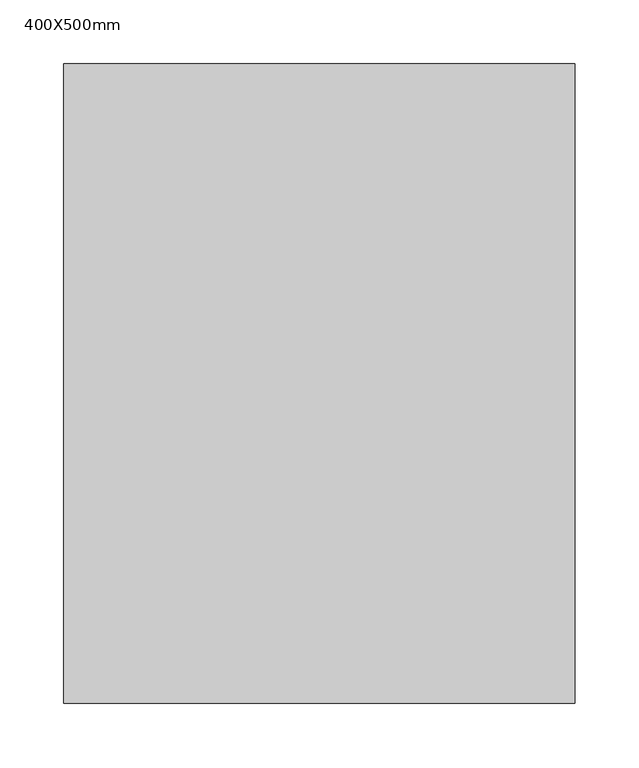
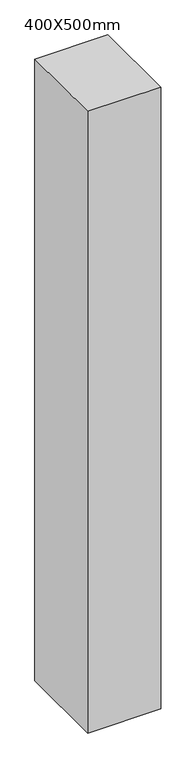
"""IFC4 building model written with IfcOpenShell, lengths in millimetres: column geometry, 混凝土 - 矩形 - 柱 : 400X500mm."""

from ifc_helpers import new_model, si_unit, frame, origin, place, context, project, spatial, polyline, outline, extrude, source, transform, mapped, element, save


def column_400x500mm_8f91d95e(model_context):
    return source(origin(), model_context, "Body", "SweptSolid", [
        extrude(outline(polyline([(200.0, 250.0), (200.0, -250.0), (-200.0, -250.0), (-200.0, 250.0), (200.0, 250.0)])), frame((0.0, 0.0, 7200.0), z_axis=(0.0, 0.0, 1.0), x_axis=(1.0, 0.0, 0.0)), (0.0, 0.0, 1.0), 3600.0),
    ])


if __name__ == "__main__":
    model = new_model("IFC4")
    model_context = context("Model", 3, world=origin())
    ifc_project = project(units=[si_unit("LENGTHUNIT", "METRE", prefix="MILLI")], contexts=[model_context])
    site = spatial("IfcSite", under=ifc_project)
    building = spatial("IfcBuilding", under=site)
    placement = place(None, origin())
    column_400x500mm_shape = column_400x500mm_8f91d95e(model_context)
    element("IfcColumn", 1, ObjectType="混凝土 - 矩形 - 柱 : 400X500mm", at=placement, inside=building, context=model_context, shape_type="MappedRepresentation", body=[
        mapped(column_400x500mm_shape, transform((0.0, 0.0, 0.0), x_axis=(1.0, 0.0, 0.0), y_axis=(0.0, 1.0, 0.0), z_axis=(0.0, 0.0, 1.0))),
    ])
    save(model, "model.ifc")
